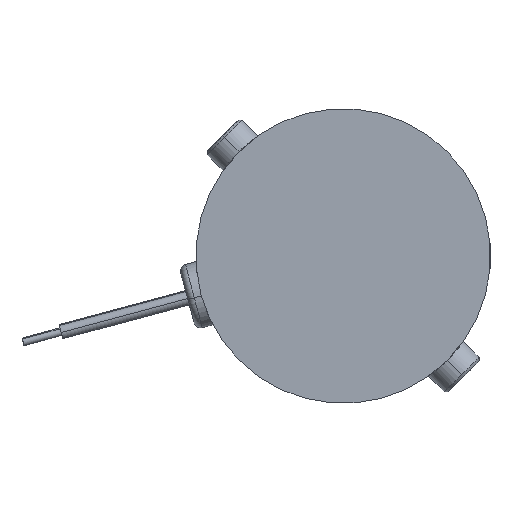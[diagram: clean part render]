
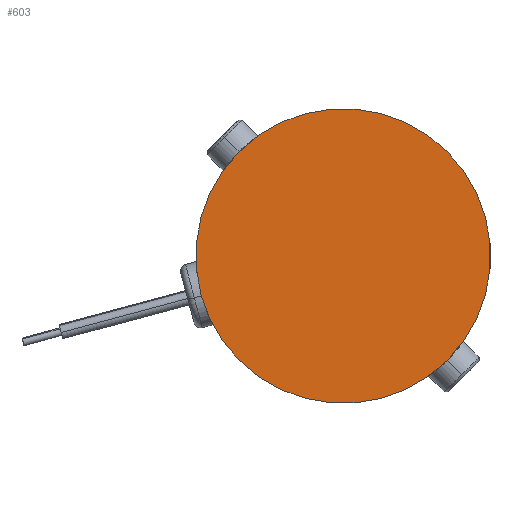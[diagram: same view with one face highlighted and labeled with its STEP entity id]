
A CAD part, left-side view. The second image highlights one B-rep face of the part: STEP entity #603.
In plain terms, the highlighted planar face has unit normal (-1, 0, 0).
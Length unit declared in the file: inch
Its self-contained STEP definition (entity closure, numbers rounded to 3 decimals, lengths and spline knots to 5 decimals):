
#498 = DIRECTION ( 'NONE',  ( 0., -0.707, -0.707 ) ) ;
#603 = ADVANCED_FACE ( 'NONE', ( #6735 ), #1868, .F. ) ;
#700 = ORIENTED_EDGE ( 'NONE', *, *, #7368, .F. ) ;
#754 = CARTESIAN_POINT ( 'NONE',  ( -4.65487, 4.52397, -2.94308 ) ) ;
#1274 = CARTESIAN_POINT ( 'NONE',  ( -4.65487, 3.72848, -3.73857 ) ) ;
#1303 = ORIENTED_EDGE ( 'NONE', *, *, #6526, .F. ) ;
#1668 = CARTESIAN_POINT ( 'NONE',  ( -4.65487, 3.72848, -3.73857 ) ) ;
#1735 = EDGE_LOOP ( 'NONE', ( #700, #1303 ) ) ;
#1868 = PLANE ( 'NONE',  #6995 ) ;
#3267 = DIRECTION ( 'NONE',  ( 1., 0., 0. ) ) ;
#3936 = DIRECTION ( 'NONE',  ( 1., 0., 0. ) ) ;
#5001 = CIRCLE ( 'NONE', #5673, 1.125 ) ;
#5673 = AXIS2_PLACEMENT_3D ( 'NONE', #1668, #5718, #6477 ) ;
#5718 = DIRECTION ( 'NONE',  ( 1., 0., 0. ) ) ;
#6477 = DIRECTION ( 'NONE',  ( 0., -0.707, -0.707 ) ) ;
#6526 = EDGE_CURVE ( 'NONE', #6849, #7272, #7488, .T. ) ;
#6735 = FACE_OUTER_BOUND ( 'NONE', #1735, .T. ) ;
#6802 = DIRECTION ( 'NONE',  ( 0., -0.707, -0.707 ) ) ;
#6849 = VERTEX_POINT ( 'NONE', #6855 ) ;
#6855 = CARTESIAN_POINT ( 'NONE',  ( -4.65487, 2.93298, -4.53407 ) ) ;
#6995 = AXIS2_PLACEMENT_3D ( 'NONE', #1274, #3267, #6802 ) ;
#7272 = VERTEX_POINT ( 'NONE', #754 ) ;
#7368 = EDGE_CURVE ( 'NONE', #7272, #6849, #5001, .T. ) ;
#7471 = AXIS2_PLACEMENT_3D ( 'NONE', #8107, #3936, #498 ) ;
#7488 = CIRCLE ( 'NONE', #7471, 1.125 ) ;
#8107 = CARTESIAN_POINT ( 'NONE',  ( -4.65487, 3.72848, -3.73857 ) ) ;
